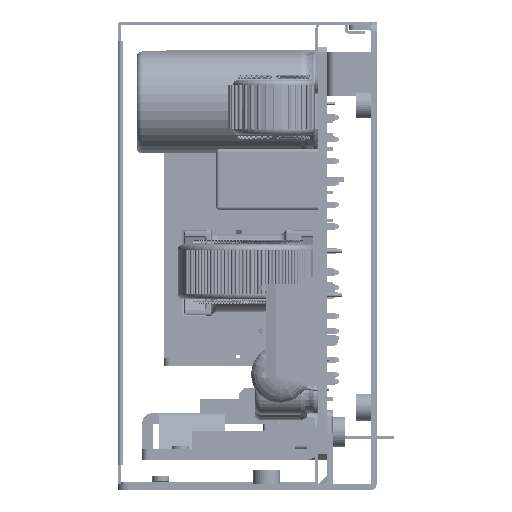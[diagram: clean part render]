
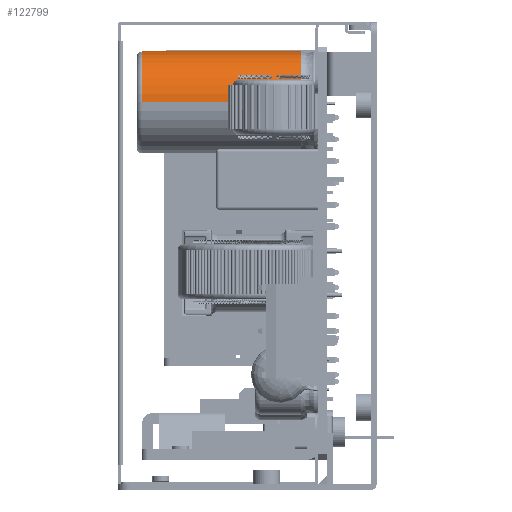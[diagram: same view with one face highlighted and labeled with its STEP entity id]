
A CAD part, left-side view. The second image highlights one B-rep face of the part: STEP entity #122799.
In plain terms, the highlighted cylindrical face has radius 9.25 mm (diameter 18.5 mm), a partial arc.
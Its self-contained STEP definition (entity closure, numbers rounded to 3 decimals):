
#78946=CARTESIAN_POINT('',(-25.3,13.653,
27.9));
#79021=CARTESIAN_POINT('',(-16.05,42.6,27.9));
#79022=DIRECTION('',(0.,-1.,0.));
#79023=DIRECTION('',(1.,0.,0.));
#79024=AXIS2_PLACEMENT_3D('',#79021,#79022,#79023);
#79031=DIRECTION('',(0.,-1.,0.));
#79032=VECTOR('',#79031,28.947);
#79033=CARTESIAN_POINT('',(-6.8,42.6,27.9));
#79034=LINE('',#79033,#79032);
#79035=CARTESIAN_POINT('',(-16.05,13.653,27.9));
#79036=DIRECTION('',(0.,-1.,0.));
#79037=DIRECTION('',(1.,0.,0.));
#79038=AXIS2_PLACEMENT_3D('',#79035,#79036,#79037);
#79040=DIRECTION('',(0.,1.,0.));
#79041=VECTOR('',#79040,28.947);
#79042=CARTESIAN_POINT('',(-25.3,13.653,
27.9));
#79043=LINE('',#79042,#79041);
#100906=VERTEX_POINT('',#78946);
#100907=CARTESIAN_POINT('',(-6.8,13.653,27.9));
#100908=VERTEX_POINT('',#100907);
#100910=CARTESIAN_POINT('',(-25.3,42.6,27.9));
#100911=CARTESIAN_POINT('',(-6.8,42.6,27.9));
#100912=VERTEX_POINT('',#100910);
#100913=VERTEX_POINT('',#100911);
#122788=CARTESIAN_POINT('',(-16.05,28.127,27.9));
#122789=DIRECTION('',(0.,-1.,0.));
#122790=DIRECTION('',(1.,0.,0.));
#122791=AXIS2_PLACEMENT_3D('',#122788,#122789,#122790);
#122792=CYLINDRICAL_SURFACE('',#122791,9.25);
#122793=ORIENTED_EDGE('',*,*,#122782,.F.);
#122794=ORIENTED_EDGE('',*,*,#122732,.T.);
#122795=ORIENTED_EDGE('',*,*,#122678,.T.);
#122796=ORIENTED_EDGE('',*,*,#122729,.T.);
#122797=EDGE_LOOP('',(#122793,#122794,#122795,#122796));
#122798=FACE_OUTER_BOUND('',#122797,.F.);
#79025=CIRCLE('',#79024,9.25);
#79039=CIRCLE('',#79038,9.25);
#122678=EDGE_CURVE('',#100908,#100906,#79039,.T.);
#122729=EDGE_CURVE('',#100906,#100912,#79043,.T.);
#122732=EDGE_CURVE('',#100913,#100908,#79034,.T.);
#122782=EDGE_CURVE('',#100913,#100912,#79025,.T.);
#122799=ADVANCED_FACE('',(#122798),#122792,.T.);
